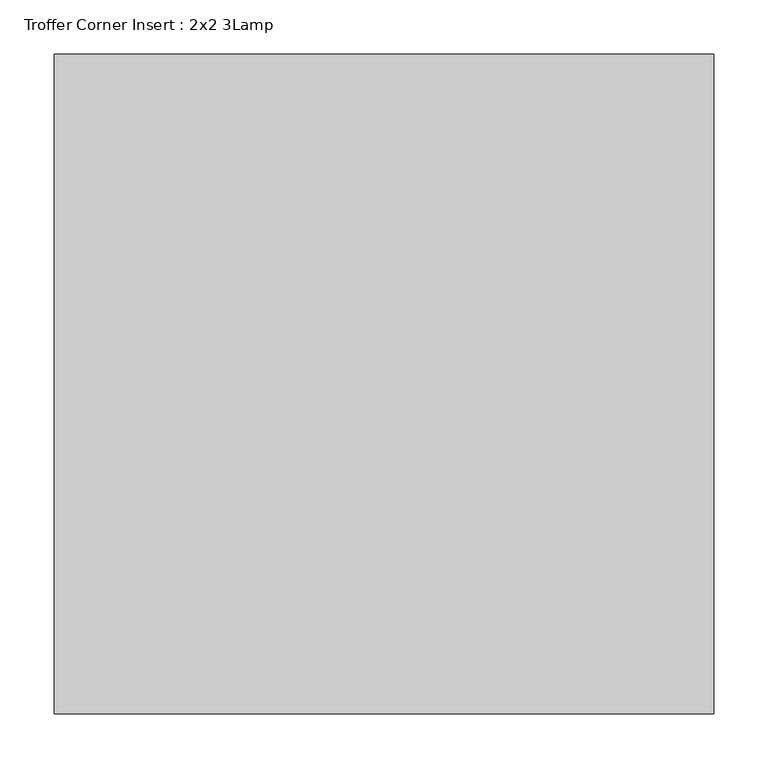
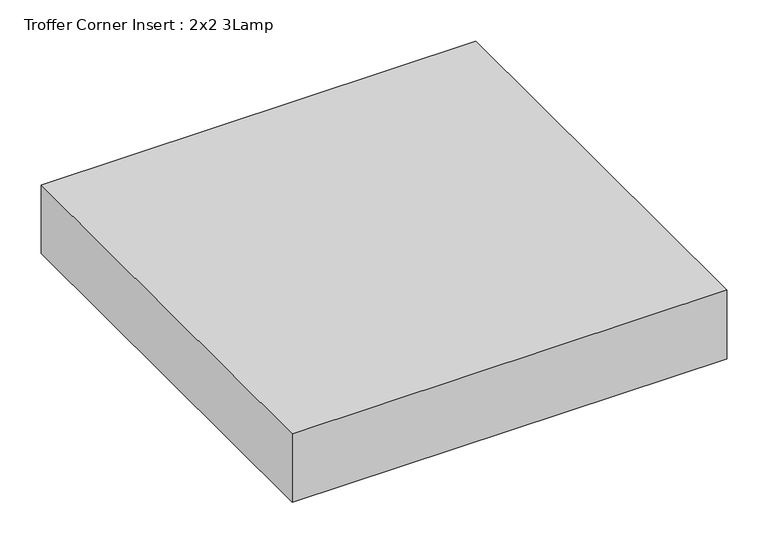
"""IFC4 building model written with IfcOpenShell, lengths in millimetres: light fixture geometry, Troffer Corner Insert : 2x2 3Lamp."""

from ifc_helpers import new_model, si_unit, frame, origin, place, context, project, spatial, polyline, outline, extrude, source, transform, mapped, element, save


def troffer_corner_insert_2x2_3lamp_e67c7f8f(model_context):
    return source(origin(), model_context, "Body", "SweptSolid", [
        extrude(outline(polyline([(304.8, 304.8), (304.8, -304.8), (-304.8, -304.8), (-304.8, 304.8), (304.8, 304.8)])), frame((0.0, 0.0, 2438.4), z_axis=(0.0, 0.0, 1.0), x_axis=(1.0, 0.0, 0.0)), (0.0, 0.0, 1.0), 101.6),
    ])


if __name__ == "__main__":
    model = new_model("IFC4")
    model_context = context("Model", 3, world=origin())
    ifc_project = project(units=[si_unit("LENGTHUNIT", "METRE", prefix="MILLI")], contexts=[model_context])
    site = spatial("IfcSite", under=ifc_project)
    building = spatial("IfcBuilding", under=site)
    placement = place(None, origin())
    troffer_corner_insert_2x2_3lamp_shape = troffer_corner_insert_2x2_3lamp_e67c7f8f(model_context)
    element("IfcLightFixture", 1, ObjectType="Troffer Corner Insert : 2x2 3Lamp", at=placement, inside=building, context=model_context, shape_type="MappedRepresentation", body=[
        mapped(troffer_corner_insert_2x2_3lamp_shape, transform((0.0, 0.0, 0.0), x_axis=(1.0, 0.0, 0.0), y_axis=(0.0, 1.0, 0.0), z_axis=(0.0, 0.0, 1.0))),
    ])
    save(model, "model.ifc")
